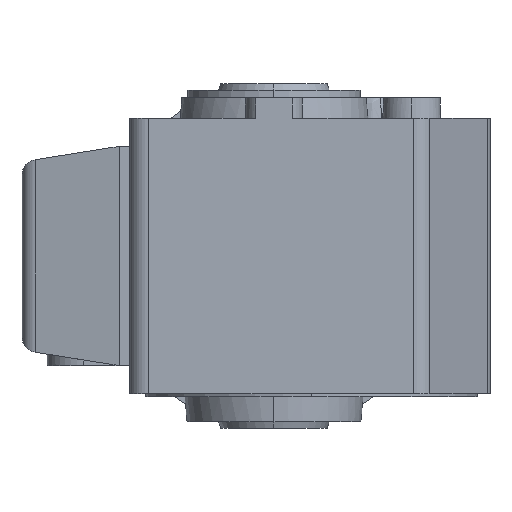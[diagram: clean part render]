
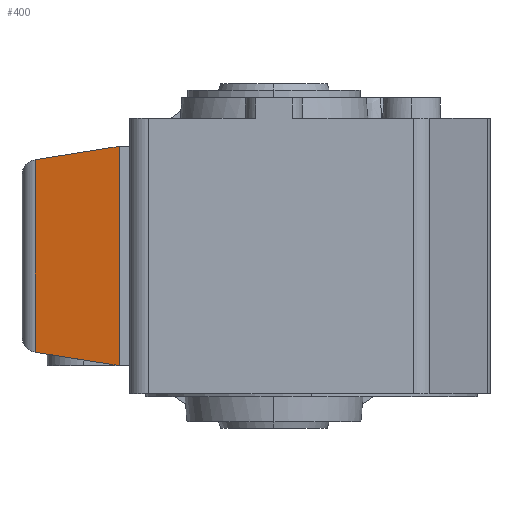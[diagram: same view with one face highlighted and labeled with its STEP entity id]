
A CAD part, left-side view. The second image highlights one B-rep face of the part: STEP entity #400.
In plain terms, the highlighted planar face has unit normal (-0.988, 0.156, 0) as drawn and (-0.988, -0.156, 0) by its records, which use the part's own axes.
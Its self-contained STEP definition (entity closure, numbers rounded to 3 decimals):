
#10=CARTESIAN_POINT('',(-127.423,-374.082,87.))
;
#20=DIRECTION('',(0.988,0.156,0.));
#30=DIRECTION('',(-0.156,0.988,0.));
#40=AXIS2_PLACEMENT_3D('',#10,#20,#30);
#50=PLANE('',#40);
#60=CARTESIAN_POINT('',(-134.487,-329.477,
8.971));
#70=DIRECTION('',(0.155,-0.976,0.155
));
#80=VECTOR('',#70,1.);
#90=LINE('',#60,#80);
#100=CARTESIAN_POINT('',(-133.458,-335.977,10.));
#110=VERTEX_POINT('',#100);
#120=CARTESIAN_POINT('',(-129.216,-362.76,
14.242));
#130=VERTEX_POINT('',#120);
#140=EDGE_CURVE('',#110,#130,#90,.T.);
#150=ORIENTED_EDGE('',*,*,#140,.T.);
#160=CARTESIAN_POINT('',(-133.458,-335.977,
9.082));
#170=DIRECTION('',(0.,0.,-1.));
#180=VECTOR('',#170,1.);
#190=LINE('',#160,#180);
#200=CARTESIAN_POINT('',(-133.458,-335.977,80.));
#210=VERTEX_POINT('',#200);
#220=EDGE_CURVE('',#210,#110,#190,.T.);
#230=ORIENTED_EDGE('',*,*,#220,.T.);
#240=CARTESIAN_POINT('',(-134.487,-329.477,
81.029));
#250=DIRECTION('',(-0.155,0.976,
0.155));
#260=VECTOR('',#250,1.);
#270=LINE('',#240,#260);
#280=CARTESIAN_POINT('',(-129.216,-362.76,
75.758));
#290=VERTEX_POINT('',#280);
#300=EDGE_CURVE('',#290,#210,#270,.T.);
#310=ORIENTED_EDGE('',*,*,#300,.T.);
#320=CARTESIAN_POINT('',(-129.216,-362.76,
9.082));
#330=DIRECTION('',(0.,0.,1.));
#340=VECTOR('',#330,1.);
#350=LINE('',#320,#340);
#360=EDGE_CURVE('',#130,#290,#350,.T.);
#370=ORIENTED_EDGE('',*,*,#360,.T.);
#380=EDGE_LOOP('',(#370,#310,#230,#150));
#390=FACE_OUTER_BOUND('',#380,.T.);
#400=ADVANCED_FACE('',(#390),#50,.F.);
